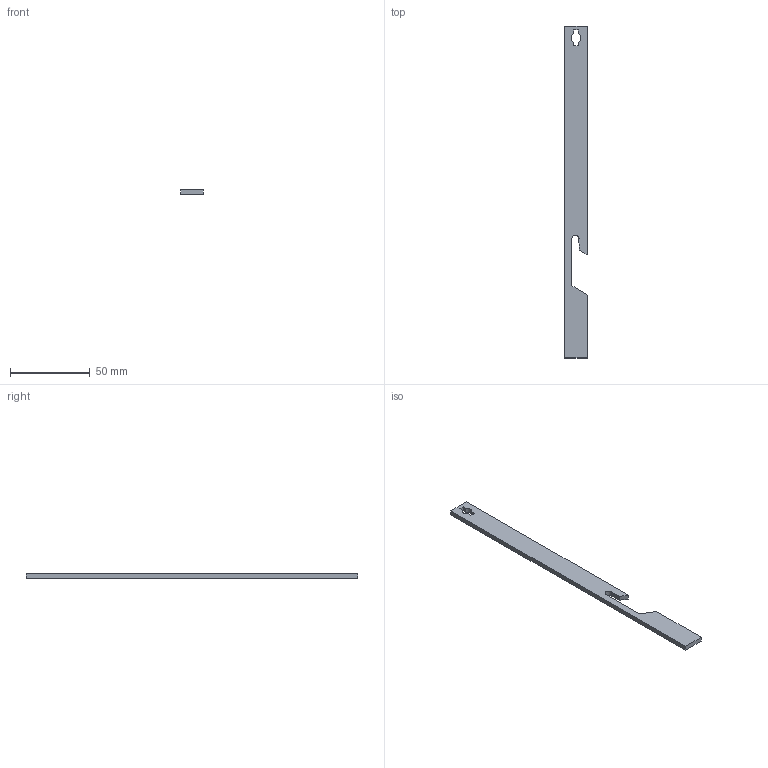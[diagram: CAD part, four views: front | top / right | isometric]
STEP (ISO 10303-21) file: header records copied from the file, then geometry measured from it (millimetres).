
FILE_DESCRIPTION (( 'STEP AP214' ), '1' );
FILE_NAME ('PP38-210.STEP', '2016-09-08T08:22:48', ( '' ), ( '' ), 'SwSTEP 2.0', 'SolidWorks 2015', '' );
FILE_SCHEMA (( 'AUTOMOTIVE_DESIGN' ));
Length unit declared in the file: millimetre
Products named in the file (1): PP38-210
Bounding box: 14 x 208.5 x 3 mm (x, y, z)
Volume: 7809.6 mm3; surface area: 6732.5 mm2
Topology: 1 solids, 1 shells, 22 faces, 60 edges, 40 vertices
Faces by surface type: plane 16, cylinder 6
Entity records: 734 total; most frequent: CARTESIAN_POINT 123, ORIENTED_EDGE 120, DIRECTION 118, EDGE_CURVE 60, VECTOR 48, LINE 48, VERTEX_POINT 40, AXIS2_PLACEMENT_3D 35
